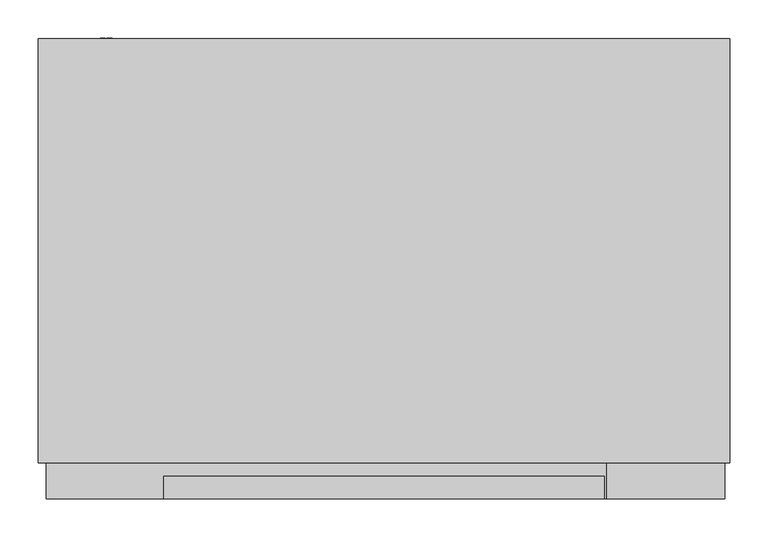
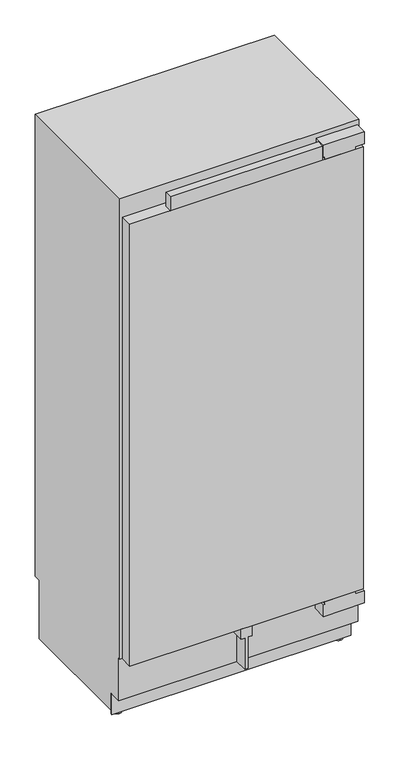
"""IFC4 building model written with IfcOpenShell, lengths in millimetres: proxy geometry, 11510930_OER_K2901VI : 36290101_OER_11510930_K2901VI."""

import ifcopenshell
import ifcopenshell.guid

model = None  # the IFC model being written
_history = None  # IfcOwnerHistory: only IFC2X3 demands one
_inside = {}  # id of a spatial element -> (the spatial element, [elements in it])
_under = {}  # id of a project, library or spatial element -> (it, [spatial elements below it])
_declared = {}  # id of a project -> (the project, [libraries it declares])
_typed = {}  # id of a type object -> (the type object, [elements of that type])
_made_of = {}  # id of a material, layer set ... -> (it, [elements and type objects made of it])


def new_model(schema):
    """Start an empty IFC model of exactly this schema.

    Asked for "IFC4X3", IfcOpenShell would pick the latest addendum, in which some entities
    have other attributes; the version numbers below select the first issue.
    IFC2X3 requires an IfcOwnerHistory on every rooted entity: one is made here for all.
    """
    global model, _history
    if schema == "IFC4X3":
        model = ifcopenshell.file(schema_version=(4, 3, 0, 0))
    else:
        model = ifcopenshell.file(schema=schema)
    _inside.clear()
    _under.clear()
    _declared.clear()
    _typed.clear()
    _made_of.clear()
    _history = None
    if model.schema == "IFC2X3":
        org = make("IfcOrganization", Name="unknown")
        user = make(
            "IfcPersonAndOrganization",
            ThePerson=make("IfcPerson", FamilyName="unknown"),
            TheOrganization=org,
        )
        app = make(
            "IfcApplication",
            ApplicationDeveloper=org,
            Version="unknown",
            ApplicationFullName="unknown",
            ApplicationIdentifier="unknown",
        )
        _history = make(
            "IfcOwnerHistory",
            OwningUser=user,
            OwningApplication=app,
            ChangeAction="ADDED",
            CreationDate=0,
        )
    return model


def make(cls, **values):
    """One entity of the class cls with the attributes given. An attribute that is None is left unset."""
    return model.create_entity(
        cls, **{name: value for name, value in values.items() if value is not None}
    )


def rooted(cls, **values):
    """An entity with a GlobalId (a new one), such as an element, a storey or a relation."""
    return make(cls, GlobalId=ifcopenshell.guid.new(), OwnerHistory=_history, **values)


def si_unit(unit_type, name, prefix=None):
    """IfcSIUnit, for example si_unit("LENGTHUNIT", "METRE", prefix="MILLI")."""
    return make("IfcSIUnit", UnitType=unit_type, Prefix=prefix, Name=name)


def assignment(units):
    """IfcUnitAssignment: the units of a project."""
    return None if units is None else make("IfcUnitAssignment", Units=units)


def point(xyz):
    """IfcCartesianPoint."""
    return None if xyz is None else make("IfcCartesianPoint", Coordinates=xyz)


def direction(xyz):
    """IfcDirection."""
    return None if xyz is None else make("IfcDirection", DirectionRatios=xyz)


def frame(location, z_axis=None, x_axis=None):
    """IfcAxis2Placement3D, a coordinate frame: its origin and axes. An axis left out is left unset."""
    return make(
        "IfcAxis2Placement3D",
        Location=point(location),
        Axis=direction(z_axis),
        RefDirection=direction(x_axis),
    )


def frame_2d(location, x_axis=None):
    """IfcAxis2Placement2D, a coordinate frame in the plane: its origin and x axis."""
    return make(
        "IfcAxis2Placement2D", Location=point(location), RefDirection=direction(x_axis)
    )


def origin():
    """The frame at (0, 0, 0) with its axes left unset."""
    return frame((0.0, 0.0, 0.0))


def place(relative_to, where):
    """IfcLocalPlacement: puts the frame where relative to a parent placement (None: the world)."""
    return make(
        "IfcLocalPlacement", PlacementRelTo=relative_to, RelativePlacement=where
    )


def context(
    kind, dimensions, precision=None, world=None, true_north=None, identifier=None
):
    """IfcGeometricRepresentationContext, for example the 3D "Model" context."""
    return make(
        "IfcGeometricRepresentationContext",
        ContextIdentifier=identifier,
        ContextType=kind,
        CoordinateSpaceDimension=dimensions,
        Precision=precision,
        WorldCoordinateSystem=world,
        TrueNorth=true_north,
    )


def project(units=None, contexts=None):
    """IfcProject with its units and contexts."""
    return rooted(
        "IfcProject",
        Name="project",
        RepresentationContexts=contexts,
        UnitsInContext=assignment(units),
    )


def spatial(cls, under=None, at=None, **own):
    """A site, building, storey or space (cls), placed at a placement, below another one or the project."""
    s = rooted(cls, ObjectPlacement=at, **own)
    if under is not None:
        _under.setdefault(under.id(), (under, []))[1].append(s)
    return s


def polyline(points):
    """IfcPolyline through the points."""
    return make("IfcPolyline", Points=[point(p) for p in points])


def circle_curve(where, radius):
    """IfcCircle in the frame where."""
    return make("IfcCircle", Position=where, Radius=radius)


def trimmed(basis, trim1, trim2, sense, master):
    """IfcTrimmedCurve: the piece of a basis curve between two trims."""
    return make(
        "IfcTrimmedCurve",
        BasisCurve=basis,
        Trim1=trim1,
        Trim2=trim2,
        SenseAgreement=sense,
        MasterRepresentation=master,
    )


def segment(curve, same_sense, transition):
    """IfcCompositeCurveSegment."""
    return make(
        "IfcCompositeCurveSegment",
        Transition=transition,
        SameSense=same_sense,
        ParentCurve=curve,
    )


def composite_curve(segments, self_intersect=None):
    """IfcCompositeCurve: segments joined end to end."""
    return make("IfcCompositeCurve", Segments=segments, SelfIntersect=self_intersect)


def outline(outer, holes=None, kind="AREA"):
    """IfcArbitraryClosedProfileDef: a profile drawn as a closed curve; with holes, ...WithVoids."""
    if holes is None:
        return make("IfcArbitraryClosedProfileDef", ProfileType=kind, OuterCurve=outer)
    return make(
        "IfcArbitraryProfileDefWithVoids",
        ProfileType=kind,
        OuterCurve=outer,
        InnerCurves=holes,
    )


def extrude(swept, where, along, depth):
    """IfcExtrudedAreaSolid: the profile swept, set in the frame where, extruded along a direction by depth."""
    return make(
        "IfcExtrudedAreaSolid",
        SweptArea=swept,
        Position=where,
        ExtrudedDirection=direction(along),
        Depth=depth,
    )


def shape(context_of_items, identifier, shape_type, items):
    """IfcShapeRepresentation: the items that make up one representation, for example the "Body"."""
    return make(
        "IfcShapeRepresentation",
        ContextOfItems=context_of_items,
        RepresentationIdentifier=identifier,
        RepresentationType=shape_type,
        Items=items,
    )


def source(mapping_origin, context_of_items, identifier, shape_type, items):
    """IfcRepresentationMap: a shape defined once, which mapped items show again and again."""
    return make(
        "IfcRepresentationMap",
        MappingOrigin=mapping_origin,
        MappedRepresentation=shape(context_of_items, identifier, shape_type, items),
    )


def transform(
    local_origin,
    x_axis=None,
    y_axis=None,
    z_axis=None,
    scale=None,
    scale2=None,
    scale3=None,
    uniform=True,
):
    """IfcCartesianTransformationOperator3D, or its non-uniform kind. x_axis, y_axis, z_axis: its Axis1, 2, 3."""
    if uniform:
        return make(
            "IfcCartesianTransformationOperator3D",
            Axis1=direction(x_axis),
            Axis2=direction(y_axis),
            LocalOrigin=point(local_origin),
            Scale=scale,
            Axis3=direction(z_axis),
        )
    return make(
        "IfcCartesianTransformationOperator3DnonUniform",
        Axis1=direction(x_axis),
        Axis2=direction(y_axis),
        LocalOrigin=point(local_origin),
        Scale=scale,
        Axis3=direction(z_axis),
        Scale2=scale2,
        Scale3=scale3,
    )


def mapped(mapping_source, mapping_target):
    """IfcMappedItem: shows the shape of a source again, moved by a transform."""
    return make(
        "IfcMappedItem", MappingSource=mapping_source, MappingTarget=mapping_target
    )


def made_of(thing, what):
    """Note that an element or type object is made of a material, layer set ...; save() writes the relation."""
    if what is not None:
        _made_of.setdefault(what.id(), (what, []))[1].append(thing)
    return thing


def element(
    cls,
    number,
    at=None,
    inside=None,
    cuts=None,
    type_object=None,
    material=None,
    context=None,
    identifier="Body",
    shape_type=None,
    held_by="IfcProductDefinitionShape",
    body=None,
    shapes=None,
    **own,
):
    """One element of the class cls, such as IfcWall. Its Tag is "e" and its number.

    at: its placement. inside: the storey or other place that contains it. cuts: it is an
    opening in that element (IfcRelVoidsElement). A single representation is given by context,
    identifier, shape_type and body (its items); several are given by shapes. held_by: the class
    of the entity that holds the representations. save() writes the other relations.
    """
    e = rooted(cls, Tag="e%d" % number, ObjectPlacement=at, **own)
    if body is not None:
        shapes = [shape(context, identifier, shape_type, body)]
    if shapes is not None:
        e.Representation = make(held_by, Representations=shapes)
    if inside is not None:
        _inside.setdefault(inside.id(), (inside, []))[1].append(e)
    if cuts is not None:
        rooted(
            "IfcRelVoidsElement", RelatingBuildingElement=cuts, RelatedOpeningElement=e
        )
    if type_object is not None:
        _typed.setdefault(type_object.id(), (type_object, []))[1].append(e)
    return made_of(e, material)


def aggregate(whole, parts):
    """IfcRelAggregates: a whole, such as a stair, and the parts it consists of."""
    return rooted("IfcRelAggregates", RelatingObject=whole, RelatedObjects=parts)


def save(model, path):
    """Write the relations noted so far, then the file.

    IfcRelAggregates (storeys below a building ...), IfcRelContainedInSpatialStructure (elements
    in a storey), IfcRelDefinesByType, IfcRelAssociatesMaterial and IfcRelDeclares: one each for
    every whole, place, type object, material and project.
    """
    for whole, parts in _under.values():
        aggregate(whole, parts)
    for where, things in _inside.values():
        rooted(
            "IfcRelContainedInSpatialStructure",
            RelatedElements=things,
            RelatingStructure=where,
        )
    for kind, things in _typed.values():
        rooted("IfcRelDefinesByType", RelatedObjects=things, RelatingType=kind)
    for what, things in _made_of.values():
        rooted("IfcRelAssociatesMaterial", RelatedObjects=things, RelatingMaterial=what)
    for by, libraries in _declared.values():
        rooted("IfcRelDeclares", RelatingContext=by, RelatedDefinitions=libraries)
    model.write(path)


def plane_surface(at):
    """IfcPlane: the flat surface through the origin of the frame at, square to its z axis."""
    return make("IfcPlane", Position=at)


def cylinder_surface(at, radius):
    """IfcCylindricalSurface: all points at the distance radius from the z axis of the frame at."""
    return make("IfcCylindricalSurface", Position=at, Radius=radius)


def advanced_brep(points, edges, surfaces, faces):
    """IfcAdvancedBrep: a solid bounded by faces that lie on surfaces and meet in shared edges.

    An edge is (start, end): straight between two places in points (the first is 0);
    or (start, end, curve); or (start, end, curve, False) where it runs against its curve.
    A face is (place in surfaces, loops), or (place, loops, False) where it looks against
    its surface's normal. A loop lists edges by number (the first is 1), with a minus sign
    where the edge is run from its end to its start. The first loop is the outer one.
    """
    corners = [point(p) for p in points]
    vertices = [make("IfcVertexPoint", VertexGeometry=c) for c in corners]
    made = []
    for start, end, *more in edges:
        made.append(
            make(
                "IfcEdgeCurve",
                EdgeStart=vertices[start],
                EdgeEnd=vertices[end],
                EdgeGeometry=more[0] if more else make("IfcPolyline", Points=[corners[start], corners[end]]),
                SameSense=more[1] if len(more) > 1 else True,
            )
        )
    hull = []
    for where, loops, *sense in faces:
        bounds = []
        for j, loop in enumerate(loops):
            ring = [make("IfcOrientedEdge", EdgeElement=made[abs(k) - 1], Orientation=k > 0) for k in loop]
            bounds.append(
                make(
                    "IfcFaceOuterBound" if j == 0 else "IfcFaceBound",
                    Bound=make("IfcEdgeLoop", EdgeList=ring),
                    Orientation=True,
                )
            )
        hull.append(make("IfcAdvancedFace", Bounds=bounds, FaceSurface=surfaces[where], SameSense=sense[0] if sense else True))
    return make("IfcAdvancedBrep", Outer=make("IfcClosedShell", CfsFaces=hull))


def specialty_equipment_2c75883b(model_context):
    return source(origin(), model_context, "Body", "SolidModel", [
        extrude(outline(polyline([(-443.0, 47.0), (443.0, 47.0), (443.0, 0.0), (-443.0, 0.0), (-443.0, 47.0)])), frame((0.0, 0.0, 265.0), z_axis=(0.0, 0.0, 1.0), x_axis=(1.0, 0.0, 0.0)), (0.0, 0.0, 1.0), 1771.0),
        extrude(outline(polyline([(-289.0, 29.0), (289.0, 29.0), (289.0, 0.0), (-289.0, 0.0), (-289.0, 29.0)])), frame((0.0, 0.0, 2036.0), z_axis=(0.0, 0.0, 1.0), x_axis=(1.0, 0.0, 0.0)), (0.0, 0.0, 1.0), 56.0),
        extrude(outline(polyline([(265.0, 21.0), (265.0, 0.0), (265.0, -21.0), (224.0, -21.0), (224.0, -6.5), (99.0, -6.5), (99.0, 0.0), (99.0, 6.5), (224.0, 6.5), (224.0, 21.0), (265.0, 21.0)])), frame((0.0, 0.0, 0.0), z_axis=(0.0, 1.0, 0.0), x_axis=(0.0, 0.0, 1.0)), (0.0, 0.0, 1.0), 54.0),
        extrude(outline(polyline([(87.0, 1998.0), (544.0, 1998.0), (544.0, 1791.0), (475.0, 1791.0), (447.0, 1868.0), (201.3701279, 1868.0), (156.3150905, 1940.0880598), (87.0, 1949.0), (87.0, 1998.0)])), frame((-408.0, 0.0, 0.0), z_axis=(1.0, 0.0, 0.0), x_axis=(0.0, 1.0, 0.0)), (0.0, 0.0, 1.0), 816.0),
        extrude(outline(polyline([(196.9886114, 1875.0), (195.809433, 1875.0), (158.6921935, 1934.4), (159.8713719, 1934.4), (196.9886114, 1875.0)])), frame((-69.0, 0.0, 0.0), z_axis=(1.0, 0.0, 0.0), x_axis=(0.0, 1.0, 0.0)), (0.0, 0.0, 1.0), 138.0),
        extrude(outline(polyline([(2095.0, 447.5), (2095.0, 292.5), (2047.0, 292.5), (2047.0, 298.5), (2036.5, 298.5), (2036.5, 413.5), (2047.0, 413.5), (2047.0, 447.5), (2095.0, 447.5)])), frame((0.0, 0.0, 0.0), z_axis=(0.0, 1.0, 0.0), x_axis=(0.0, 0.0, 1.0)), (0.0, 0.0, 1.0), 47.0),
        extrude(outline(polyline([(254.0, 292.5), (206.0, 292.5), (206.0, 447.5), (254.0, 447.5), (254.0, 413.5), (264.0, 413.5), (264.0, 298.5), (254.0, 298.5), (254.0, 292.5)])), frame((0.0, 0.0, 0.0), z_axis=(0.0, 1.0, 0.0), x_axis=(0.0, 0.0, 1.0)), (0.0, 0.0, 1.0), 54.0),
        extrude(outline(polyline([(99.0373308, -363.7645771), (97.7615342, -363.7645771), (97.7615342, -357.8195541), (94.7968516, -357.8195541), (94.7968516, -363.469579), (93.5246295, -363.469579), (93.5246295, -357.8415693), (90.2570046, -357.8415693), (90.2570046, -363.9619689), (88.9546219, -363.9619689), (88.9546219, -356.5443524), (99.0373308, -356.5443524), (99.0373308, -363.7645771)])), frame((0.0, 604.0, 0.0), z_axis=(0.0, 1.0, 0.0), x_axis=(0.0, 0.0, 1.0)), (0.0, 0.0, 1.0), 1.0),
        extrude(outline(polyline([(99.0458, -367.0619704), (90.2663944, -367.0619704), (90.2663944, -372.1145879), (89.0134802, -372.1145879), (89.0134802, -365.8423809), (99.0458, -365.8423809), (99.0458, -367.0619704)])), frame((0.0, 604.0, 0.0), z_axis=(0.0, 1.0, 0.0), x_axis=(0.0, 0.0, 1.0)), (0.0, 0.0, 1.0), 1.0),
        extrude(outline(composite_curve([segment(trimmed(circle_curve(frame_2d((94.0, -364.0)), 7.5), [point((86.5, -364.0))], [point((101.5, -364.0))], False, "CARTESIAN"), True, "CONTINUOUS"), segment(trimmed(circle_curve(frame_2d((94.0, -364.0)), 7.5), [point((101.5, -364.0))], [point((86.5, -364.0))], False, "CARTESIAN"), True, "CONTINUOUS")], self_intersect=False)), frame((0.0, 577.0, 0.0), z_axis=(0.0, 1.0, 0.0), x_axis=(0.0, 0.0, 1.0)), (0.0, 0.0, 1.0), 27.0),
        extrude(outline(polyline([(-454.0, 104.0), (454.0, 104.0), (454.0, 99.0), (-454.0, 99.0), (-454.0, 104.0)])), frame((0.0, 0.0, 14.0), z_axis=(0.0, 0.0, 1.0), x_axis=(1.0, 0.0, 0.0)), (0.0, 0.0, 1.0), 83.0),
        advanced_brep(
        [(-420.0, 139.0, 0.0), (-420.0, 109.0, 0.0), (-420.0, 139.0, 7.0), (-420.0, 109.0, 7.0), (-420.0, 128.7, 7.0), (-420.0, 119.3, 7.0), (-420.0, 128.7, 28.0), (-420.0, 119.3, 28.0)],
        [
            (0, 1, circle_curve(frame((-420.0, 124.0, 0.0), z_axis=(0.0, 0.0, -1.0), x_axis=(1.0, 0.0, 0.0)), 15.0)),
            (1, 0, circle_curve(frame((-420.0, 124.0, 0.0), z_axis=(0.0, 0.0, -1.0), x_axis=(1.0, 0.0, 0.0)), 15.0)),
            (2, 3, circle_curve(frame((-420.0, 124.0, 7.0), z_axis=(0.0, 0.0, 1.0), x_axis=(1.0, 0.0, 0.0)), 15.0)),
            (3, 2, circle_curve(frame((-420.0, 124.0, 7.0), z_axis=(0.0, 0.0, 1.0), x_axis=(1.0, 0.0, 0.0)), 15.0)),
            (4, 5, circle_curve(frame((-420.0, 124.0, 7.0), z_axis=(0.0, 0.0, -1.0), x_axis=(0.0, -1.0, 0.0)), 4.7)),
            (5, 4, circle_curve(frame((-420.0, 124.0, 7.0), z_axis=(0.0, 0.0, -1.0), x_axis=(0.0, -1.0, 0.0)), 4.7)),
            (0, 2),
            (3, 1),
            (6, 7, circle_curve(frame((-420.0, 124.0, 28.0), z_axis=(0.0, 0.0, 1.0), x_axis=(0.0, -1.0, 0.0)), 4.7)),
            (7, 6, circle_curve(frame((-420.0, 124.0, 28.0), z_axis=(0.0, 0.0, 1.0), x_axis=(0.0, -1.0, 0.0)), 4.7)),
            (7, 5),
            (4, 6),
        ],
        [
            plane_surface(frame((-405.0, 124.0, 0.0), z_axis=(0.0, 0.0, -1.0), x_axis=(0.0, -1.0, 0.0))),
            plane_surface(frame((-405.0, 124.0, 7.0), z_axis=(0.0, 0.0, 1.0), x_axis=(0.0, 1.0, 0.0))),
            cylinder_surface(frame((-420.0, 124.0, 7.0), z_axis=(0.0, 0.0, -1.0), x_axis=(1.0, 0.0, 0.0)), 15.0),
            plane_surface(frame((-420.0, 119.3, 28.0), z_axis=(0.0, 0.0, 1.0), x_axis=(1.0, 0.0, 0.0))),
            cylinder_surface(frame((-420.0, 124.0, 28.0), z_axis=(0.0, 0.0, -1.0), x_axis=(0.0, -1.0, 0.0)), 4.7),
        ],
        [
            (0, [[1, 2]]),
            (1, [[3, 4], [5, 6]]),
            (2, [[-1, 7, -4, 8]]),
            (2, [[-2, -8, -3, -7]]),
            (3, [[9, 10]]),
            (4, [[-10, 11, -5, 12]]),
            (4, [[-9, -12, -6, -11]]),
        ],
    ),
        advanced_brep(
        [(420.0, 139.0, 0.0), (420.0, 109.0, 0.0), (420.0, 139.0, 7.0), (420.0, 109.0, 7.0), (420.0, 128.7, 7.0), (420.0, 119.3, 7.0), (420.0, 128.7, 28.0), (420.0, 119.3, 28.0)],
        [
            (0, 1, circle_curve(frame((420.0, 124.0, 0.0), z_axis=(0.0, 0.0, -1.0), x_axis=(1.0, 0.0, 0.0)), 15.0)),
            (1, 0, circle_curve(frame((420.0, 124.0, 0.0), z_axis=(0.0, 0.0, -1.0), x_axis=(1.0, 0.0, 0.0)), 15.0)),
            (2, 3, circle_curve(frame((420.0, 124.0, 7.0), z_axis=(0.0, 0.0, 1.0), x_axis=(1.0, 0.0, 0.0)), 15.0)),
            (3, 2, circle_curve(frame((420.0, 124.0, 7.0), z_axis=(0.0, 0.0, 1.0), x_axis=(1.0, 0.0, 0.0)), 15.0)),
            (4, 5, circle_curve(frame((420.0, 124.0, 7.0), z_axis=(0.0, 0.0, -1.0), x_axis=(0.0, -1.0, 0.0)), 4.7)),
            (5, 4, circle_curve(frame((420.0, 124.0, 7.0), z_axis=(0.0, 0.0, -1.0), x_axis=(0.0, -1.0, 0.0)), 4.7)),
            (0, 2),
            (3, 1),
            (6, 7, circle_curve(frame((420.0, 124.0, 28.0), z_axis=(0.0, 0.0, 1.0), x_axis=(0.0, -1.0, 0.0)), 4.7)),
            (7, 6, circle_curve(frame((420.0, 124.0, 28.0), z_axis=(0.0, 0.0, 1.0), x_axis=(0.0, -1.0, 0.0)), 4.7)),
            (7, 5),
            (4, 6),
        ],
        [
            plane_surface(frame((-405.0, 124.0, 0.0), z_axis=(0.0, 0.0, -1.0), x_axis=(0.0, -1.0, 0.0))),
            plane_surface(frame((-405.0, 124.0, 7.0), z_axis=(0.0, 0.0, 1.0), x_axis=(0.0, 1.0, 0.0))),
            cylinder_surface(frame((420.0, 124.0, 7.0), z_axis=(0.0, 0.0, -1.0), x_axis=(1.0, 0.0, 0.0)), 15.0),
            plane_surface(frame((-420.0, 119.3, 28.0), z_axis=(0.0, 0.0, 1.0), x_axis=(1.0, 0.0, 0.0))),
            cylinder_surface(frame((420.0, 124.0, 28.0), z_axis=(0.0, 0.0, -1.0), x_axis=(0.0, -1.0, 0.0)), 4.7),
        ],
        [
            (0, [[1, 2]]),
            (1, [[3, 4], [5, 6]]),
            (2, [[-1, 7, -4, 8]]),
            (2, [[-2, -8, -3, -7]]),
            (3, [[9, 10]]),
            (4, [[-10, 11, -5, 12]]),
            (4, [[-9, -12, -6, -11]]),
        ],
    ),
        advanced_brep(
        [(454.0, 47.0, 2114.0), (454.0, 47.0, 267.0), (454.0, 54.0, 267.0), (454.0, 54.0, 97.0), (454.0, 104.0, 97.0), (454.0, 104.0, 28.0), (454.0, 577.0, 28.0), (454.0, 577.0, 263.0), (454.0, 604.0, 263.0), (454.0, 604.0, 2114.0), (-454.0, 47.0, 2114.0), (-454.0, 604.0, 2114.0), (-454.0, 604.0, 263.0), (-454.0, 577.0, 263.0), (-454.0, 577.0, 28.0), (-454.0, 104.0, 28.0), (-454.0, 104.0, 97.0), (-454.0, 54.0, 97.0), (-454.0, 54.0, 267.0), (-454.0, 47.0, 267.0), (394.0, 577.0, 28.0), (394.0, 577.0, 14.0), (-394.0, 577.0, 14.0), (-394.0, 577.0, 28.0), (394.0, 104.0, 14.0), (-394.0, 104.0, 14.0), (-394.0, 104.0, 28.0), (394.0, 104.0, 28.0), (408.0, 47.0, 1998.0), (408.0, 47.0, 343.0), (-408.0, 47.0, 343.0), (-408.0, 47.0, 1998.0), (408.0, 544.0, 1998.0), (-408.0, 544.0, 1998.0), (-408.0, 544.0, 343.0), (408.0, 544.0, 343.0), (-412.5, 202.8193473, 28.0), (-431.5, 202.8193473, 28.0), (-431.5, 153.1806527, 28.0), (-412.5, 153.1806527, 28.0), (-432.0, 525.8193473, 28.0), (-432.0, 476.1806527, 28.0), (-416.0, 476.1806527, 28.0), (-416.0, 525.8193473, 28.0), (431.5, 153.1806527, 28.0), (431.5, 202.8193473, 28.0), (412.5, 202.8193473, 28.0), (412.5, 153.1806527, 28.0), (416.0, 525.8193473, 28.0), (416.0, 476.1806527, 28.0), (432.0, 476.1806527, 28.0), (432.0, 525.8193473, 28.0), (-412.5, 203.0, 25.0), (-412.5, 153.0, 25.0), (-431.5, 153.0, 25.0), (-431.5, 203.0, 25.0), (-412.5, 178.0, 25.0), (-431.5, 178.0, 25.0), (431.5, 178.0, 25.0), (431.5, 153.0, 25.0), (431.5, 203.0, 25.0), (412.5, 203.0, 25.0), (412.5, 153.0, 25.0), (412.5, 178.0, 25.0), (-432.0, 526.0, 25.0), (-432.0, 476.0, 25.0), (-432.0, 501.0, 25.0), (-416.0, 526.0, 25.0), (-416.0, 476.0, 25.0), (-416.0, 501.0, 25.0), (416.0, 526.0, 25.0), (416.0, 476.0, 25.0), (416.0, 501.0, 25.0), (432.0, 526.0, 25.0), (432.0, 476.0, 25.0), (432.0, 501.0, 25.0)],
        [
            (0, 1),
            (1, 2),
            (2, 3),
            (3, 4),
            (4, 5),
            (5, 6),
            (6, 7),
            (7, 8),
            (8, 9),
            (9, 0),
            (10, 11),
            (11, 12),
            (12, 13),
            (13, 14),
            (14, 15),
            (15, 16),
            (16, 17),
            (17, 18),
            (18, 19),
            (19, 10),
            (9, 11),
            (10, 0),
            (8, 12),
            (7, 13),
            (6, 20),
            (20, 21),
            (21, 22),
            (22, 23),
            (23, 14),
            (21, 24),
            (24, 25),
            (25, 22),
            (4, 16),
            (15, 26),
            (26, 25),
            (24, 27),
            (27, 5),
            (3, 17),
            (2, 18),
            (1, 19),
            (28, 29),
            (29, 30),
            (30, 31),
            (31, 28),
            (32, 33),
            (33, 34),
            (34, 35),
            (35, 32),
            (35, 29),
            (28, 32),
            (34, 30),
            (33, 31),
            (23, 26),
            (36, 37),
            (37, 38),
            (38, 39),
            (39, 36),
            (40, 41),
            (41, 42),
            (42, 43),
            (43, 40),
            (27, 20),
            (44, 45),
            (45, 46),
            (46, 47),
            (47, 44),
            (48, 49),
            (49, 50),
            (50, 51),
            (51, 48),
            (52, 53, circle_curve(frame((-412.5, 178.0, 25.0), z_axis=(-1.0, 0.0, 0.0), x_axis=(0.0, -1.0, 0.0)), 25.0)),
            (53, 54),
            (54, 55, circle_curve(frame((-431.5, 178.0, 25.0), z_axis=(1.0, 0.0, 0.0), x_axis=(0.0, -1.0, 0.0)), 25.0)),
            (55, 52),
            (53, 39, circle_curve(frame((-412.5, 178.0, 25.0), z_axis=(-1.0, 0.0, 0.0), x_axis=(0.0, -1.0, 0.0)), 25.0)),
            (38, 54, circle_curve(frame((-431.5, 178.0, 25.0), z_axis=(1.0, 0.0, 0.0), x_axis=(0.0, -1.0, 0.0)), 25.0)),
            (55, 37, circle_curve(frame((-431.5, 178.0, 25.0), z_axis=(1.0, 0.0, 0.0), x_axis=(0.0, -1.0, 0.0)), 25.0)),
            (36, 52, circle_curve(frame((-412.5, 178.0, 25.0), z_axis=(-1.0, 0.0, 0.0), x_axis=(0.0, -1.0, 0.0)), 25.0)),
            (52, 56),
            (56, 53),
            (54, 57),
            (57, 55),
            (58, 59),
            (59, 60, circle_curve(frame((431.5, 178.0, 25.0), z_axis=(1.0, 0.0, 0.0), x_axis=(0.0, -1.0, 0.0)), 25.0)),
            (60, 58),
            (60, 45, circle_curve(frame((431.5, 178.0, 25.0), z_axis=(1.0, 0.0, 0.0), x_axis=(0.0, -1.0, 0.0)), 25.0)),
            (44, 59, circle_curve(frame((431.5, 178.0, 25.0), z_axis=(1.0, 0.0, 0.0), x_axis=(0.0, -1.0, 0.0)), 25.0)),
            (61, 62, circle_curve(frame((412.5, 178.0, 25.0), z_axis=(-1.0, 0.0, 0.0), x_axis=(0.0, -1.0, 0.0)), 25.0)),
            (62, 63),
            (63, 61),
            (62, 47, circle_curve(frame((412.5, 178.0, 25.0), z_axis=(-1.0, 0.0, 0.0), x_axis=(0.0, -1.0, 0.0)), 25.0)),
            (46, 61, circle_curve(frame((412.5, 178.0, 25.0), z_axis=(-1.0, 0.0, 0.0), x_axis=(0.0, -1.0, 0.0)), 25.0)),
            (64, 65, circle_curve(frame((-432.0, 501.0, 25.0), z_axis=(-1.0, 0.0, 0.0), x_axis=(0.0, -1.0, 0.0)), 25.0)),
            (65, 66),
            (66, 64),
            (65, 41, circle_curve(frame((-432.0, 501.0, 25.0), z_axis=(-1.0, 0.0, 0.0), x_axis=(0.0, -1.0, 0.0)), 25.0)),
            (40, 64, circle_curve(frame((-432.0, 501.0, 25.0), z_axis=(-1.0, 0.0, 0.0), x_axis=(0.0, -1.0, 0.0)), 25.0)),
            (64, 67),
            (67, 68, circle_curve(frame((-416.0, 501.0, 25.0), z_axis=(-1.0, 0.0, 0.0), x_axis=(0.0, -1.0, 0.0)), 25.0)),
            (68, 65),
            (43, 67, circle_curve(frame((-416.0, 501.0, 25.0), z_axis=(-1.0, 0.0, 0.0), x_axis=(0.0, -1.0, 0.0)), 25.0)),
            (68, 42, circle_curve(frame((-416.0, 501.0, 25.0), z_axis=(-1.0, 0.0, 0.0), x_axis=(0.0, -1.0, 0.0)), 25.0)),
            (67, 69),
            (69, 68),
            (70, 71, circle_curve(frame((416.0, 501.0, 25.0), z_axis=(-1.0, 0.0, 0.0), x_axis=(0.0, -1.0, 0.0)), 25.0)),
            (71, 72),
            (72, 70),
            (71, 49, circle_curve(frame((416.0, 501.0, 25.0), z_axis=(-1.0, 0.0, 0.0), x_axis=(0.0, -1.0, 0.0)), 25.0)),
            (48, 70, circle_curve(frame((416.0, 501.0, 25.0), z_axis=(-1.0, 0.0, 0.0), x_axis=(0.0, -1.0, 0.0)), 25.0)),
            (70, 73),
            (73, 74, circle_curve(frame((432.0, 501.0, 25.0), z_axis=(-1.0, 0.0, 0.0), x_axis=(0.0, -1.0, 0.0)), 25.0)),
            (74, 71),
            (51, 73, circle_curve(frame((432.0, 501.0, 25.0), z_axis=(-1.0, 0.0, 0.0), x_axis=(0.0, -1.0, 0.0)), 25.0)),
            (74, 50, circle_curve(frame((432.0, 501.0, 25.0), z_axis=(-1.0, 0.0, 0.0), x_axis=(0.0, -1.0, 0.0)), 25.0)),
            (73, 75),
            (75, 74),
            (59, 62),
            (61, 60),
        ],
        [
            plane_surface(frame((454.0, 604.0, 2114.0), z_axis=(1.0, 0.0, 0.0), x_axis=(0.0, -1.0, 0.0))),
            plane_surface(frame((-454.0, 604.0, 2114.0), z_axis=(-1.0, 0.0, 0.0), x_axis=(0.0, 1.0, 0.0))),
            plane_surface(frame((-454.0, 47.0, 2114.0), z_axis=(0.0, 0.0, 1.0), x_axis=(1.0, 0.0, 0.0))),
            plane_surface(frame((-454.0, 604.0, 2114.0), z_axis=(0.0, 1.0, 0.0), x_axis=(1.0, 0.0, 0.0))),
            plane_surface(frame((-454.0, 604.0, 263.0), z_axis=(0.0, 0.0, -1.0), x_axis=(1.0, 0.0, 0.0))),
            plane_surface(frame((-454.0, 577.0, 263.0), z_axis=(0.0, 1.0, 0.0), x_axis=(1.0, 0.0, 0.0))),
            plane_surface(frame((-454.0, 577.0, 14.0), z_axis=(0.0, 0.0, -1.0), x_axis=(1.0, 0.0, 0.0))),
            plane_surface(frame((-454.0, 104.0, 14.0), z_axis=(0.0, -1.0, 0.0), x_axis=(1.0, 0.0, 0.0))),
            plane_surface(frame((-454.0, 104.0, 97.0), z_axis=(0.0, 0.0, -1.0), x_axis=(1.0, 0.0, 0.0))),
            plane_surface(frame((-454.0, 54.0, 97.0), z_axis=(0.0, -1.0, 0.0), x_axis=(1.0, 0.0, 0.0))),
            plane_surface(frame((-454.0, 54.0, 267.0), z_axis=(0.0, 0.0, -1.0), x_axis=(1.0, 0.0, 0.0))),
            plane_surface(frame((-454.0, 47.0, 267.0), z_axis=(0.0, -1.0, 0.0), x_axis=(1.0, 0.0, 0.0))),
            plane_surface(frame((408.0, 544.0, 1998.0), z_axis=(0.0, -1.0, 0.0), x_axis=(0.0, 0.0, -1.0))),
            plane_surface(frame((408.0, 544.0, 1998.0), z_axis=(-1.0, 0.0, 0.0), x_axis=(0.0, -1.0, 0.0))),
            plane_surface(frame((408.0, 544.0, 343.0), z_axis=(0.0, 0.0, 1.0), x_axis=(0.0, -1.0, 0.0))),
            plane_surface(frame((-408.0, 544.0, 343.0), z_axis=(1.0, 0.0, 0.0), x_axis=(0.0, -1.0, 0.0))),
            plane_surface(frame((-408.0, 544.0, 1998.0), z_axis=(0.0, 0.0, -1.0), x_axis=(0.0, -1.0, 0.0))),
            plane_surface(frame((-454.0, 604.0, 28.0), z_axis=(0.0, 0.0, -1.0), x_axis=(-1.0, 0.0, 0.0))),
            plane_surface(frame((-394.0, 104.0, 28.0), z_axis=(-1.0, 0.0, 0.0), x_axis=(0.0, 0.0, -1.0))),
            plane_surface(frame((394.0, 604.0, 28.0), z_axis=(1.0, 0.0, 0.0), x_axis=(0.0, 0.0, -1.0))),
            cylinder_surface(frame((-546.6988927, 178.0, 25.0), z_axis=(1.0, 0.0, 0.0), x_axis=(0.0, -1.0, 0.0)), 25.0),
            plane_surface(frame((-412.5, 178.0, 25.0), z_axis=(1.0, 0.0, 0.0), x_axis=(0.0, -1.0, 0.0))),
            plane_surface(frame((-431.5, 178.0, 25.0), z_axis=(-1.0, 0.0, 0.0), x_axis=(0.0, -1.0, 0.0))),
            plane_surface(frame((431.5, 178.0, 25.0), z_axis=(1.0, 0.0, 0.0), x_axis=(0.0, -1.0, 0.0))),
            plane_surface(frame((412.5, 178.0, 25.0), z_axis=(-1.0, 0.0, 0.0), x_axis=(0.0, -1.0, 0.0))),
            plane_surface(frame((-432.0, 501.0, 25.0), z_axis=(-1.0, 0.0, 0.0), x_axis=(0.0, -1.0, 0.0))),
            cylinder_surface(frame((-546.6988927, 501.0, 25.0), z_axis=(1.0, 0.0, 0.0), x_axis=(0.0, -1.0, 0.0)), 25.0),
            plane_surface(frame((-416.0, 501.0, 25.0), z_axis=(1.0, 0.0, 0.0), x_axis=(0.0, -1.0, 0.0))),
            plane_surface(frame((416.0, 501.0, 25.0), z_axis=(-1.0, 0.0, 0.0), x_axis=(0.0, -1.0, 0.0))),
            plane_surface(frame((432.0, 501.0, 25.0), z_axis=(1.0, 0.0, 0.0), x_axis=(0.0, -1.0, 0.0))),
        ],
        [
            (0, [[1, 2, 3, 4, 5, 6, 7, 8, 9, 10]]),
            (1, [[11, 12, 13, 14, 15, 16, 17, 18, 19, 20]]),
            (2, [[-10, 21, -11, 22]]),
            (3, [[-9, 23, -12, -21]]),
            (4, [[-8, 24, -13, -23]]),
            (5, [[-24, -7, 25, 26, 27, 28, 29, -14]]),
            (6, [[-27, 30, 31, 32]]),
            (7, [[33, -16, 34, 35, -31, 36, 37, -5]]),
            (8, [[-4, 38, -17, -33]]),
            (9, [[-3, 39, -18, -38]]),
            (10, [[-2, 40, -19, -39]]),
            (11, [[-1, -22, -20, -40], [41, 42, 43, 44]]),
            (12, [[45, 46, 47, 48]]),
            (13, [[-48, 49, -41, 50]]),
            (14, [[-47, 51, -42, -49]]),
            (15, [[-46, 52, -43, -51]]),
            (16, [[-45, -50, -44, -52]]),
            (17, [[53, -34, -15, -29], [54, 55, 56, 57], [58, 59, 60, 61]]),
            (17, [[62, -25, -6, -37], [63, 64, 65, 66], [67, 68, 69, 70]]),
            (18, [[-53, -28, -32, -35]]),
            (19, [[-62, -36, -30, -26]]),
            (20, [[71, 72, 73, 74]]),
            (20, [[-72, 75, -56, 76]]),
            (20, [[-74, 77, -54, 78]]),
            (21, [[-71, 79, 80]]),
            (21, [[-80, -79, -78, -57, -75]]),
            (22, [[-73, 81, 82]]),
            (22, [[-81, -76, -55, -77, -82]]),
            (23, [[83, 84, 85]]),
            (23, [[-83, -85, 86, -63, 87]]),
            (24, [[88, 89, 90]]),
            (24, [[-89, 91, -65, 92, -90]]),
            (25, [[93, 94, 95]]),
            (25, [[-94, 96, -58, 97, -95]]),
            (26, [[-93, 98, 99, 100]]),
            (26, [[-98, -97, -61, 101]]),
            (26, [[-100, 102, -59, -96]]),
            (27, [[-99, 103, 104]]),
            (27, [[-104, -103, -101, -60, -102]]),
            (28, [[105, 106, 107]]),
            (28, [[-106, 108, -67, 109, -107]]),
            (26, [[-105, 110, 111, 112]]),
            (26, [[-110, -109, -70, 113]]),
            (26, [[-112, 114, -68, -108]]),
            (29, [[-111, 115, 116]]),
            (29, [[-116, -115, -113, -69, -114]]),
            (20, [[-84, 117, -88, 118]]),
            (20, [[-117, -87, -66, -91]]),
            (20, [[-118, -92, -64, -86]]),
        ],
    ),
    ])


if __name__ == "__main__":
    model = new_model("IFC4")
    model_context = context("Model", 3, world=origin())
    ifc_project = project(units=[si_unit("LENGTHUNIT", "METRE", prefix="MILLI")], contexts=[model_context])
    site = spatial("IfcSite", under=ifc_project)
    building = spatial("IfcBuilding", under=site)
    placement = place(None, origin())
    specialty_equipment_shape = specialty_equipment_2c75883b(model_context)
    element("IfcBuildingElementProxy", 1, Name="11510930_OER_K2901VI : 36290101_OER_11510930_K2901VI", ObjectType="11510930_OER_K2901VI : 36290101_OER_11510930_K2901VI", at=placement, inside=building, context=model_context, shape_type="MappedRepresentation", body=[
        mapped(specialty_equipment_shape, transform((0.0, 0.0, 0.0), x_axis=(1.0, 0.0, 0.0), y_axis=(0.0, 1.0, 0.0), z_axis=(0.0, 0.0, 1.0))),
    ])
    save(model, "model.ifc")
